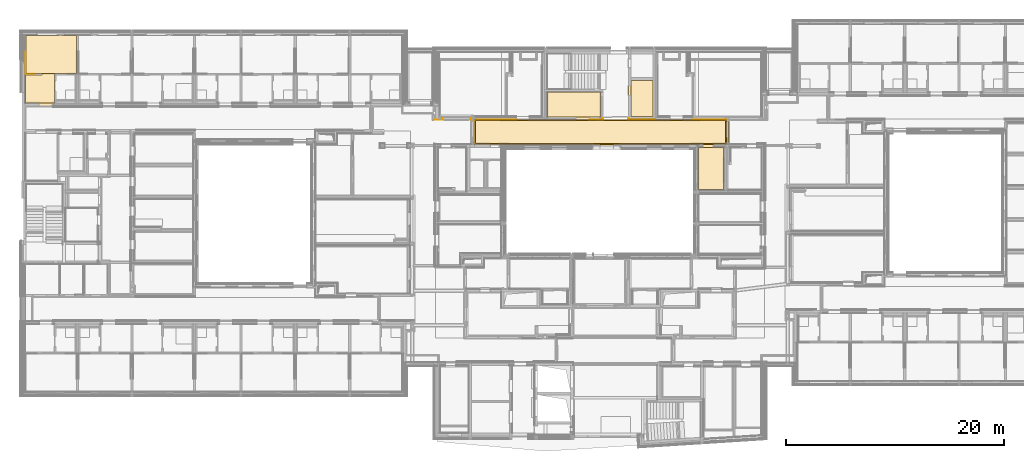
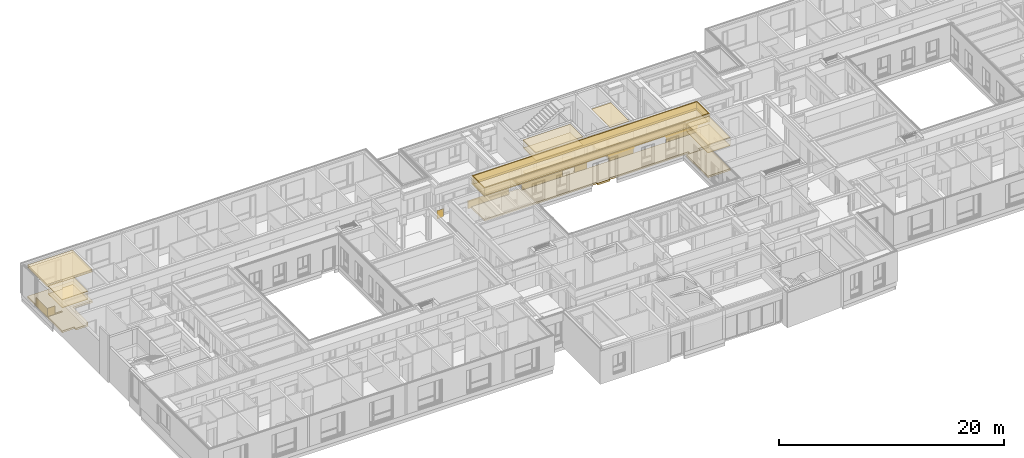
# One storey, part 172 of 207: 34 coverings.
"""IFC4 building model written with IfcOpenShell, lengths in metres."""

from ifc_helpers import new_model, entity, si_unit, converted_unit, derived_unit, frame, frame_2d, origin, place, context, subcontext, project, spatial, polyline, rectangle, outline, extrude, material, layer, layer_set, layer_usage, element, save


model = new_model("IFC4")

# Units and contexts
model_context = context("Model", 3, precision=1e-05, world=origin())
body_context = subcontext(model_context, "Body", "Model", "MODEL_VIEW")
ifc_project = project(units=[si_unit("LENGTHUNIT", "METRE"), si_unit("AREAUNIT", "SQUARE_METRE"), si_unit("VOLUMEUNIT", "CUBIC_METRE"), si_unit("MASSUNIT", "GRAM", prefix="KILO"), converted_unit("PLANEANGLEUNIT", "DEGREE", entity("IfcPlaneAngleMeasure", 0.0174532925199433), si_unit("PLANEANGLEUNIT", "RADIAN"), dimensions=[0, 0, 0, 0, 0, 0, 0]), derived_unit("THERMALTRANSMITTANCEUNIT", [(si_unit("POWERUNIT", "WATT"), 1), (si_unit("THERMODYNAMICTEMPERATUREUNIT", "KELVIN"), -1), (si_unit("LENGTHUNIT", "METRE"), -2)]), derived_unit("VOLUMETRICFLOWRATEUNIT", [(si_unit("LENGTHUNIT", "METRE"), 3), (converted_unit("TIMEUNIT", "hour", entity("IfcTimeMeasure", 3600.0), si_unit("TIMEUNIT", "SECOND"), dimensions=[0, 0, 1, 0, 0, 0, 0]), -1), (si_unit("LENGTHUNIT", "METRE"), -1)])], contexts=[model_context])

# Site, building, storey, space
site_placement = place(None, origin())
site = spatial("IfcSite", under=ifc_project, at=site_placement, Name="Psychiatrie Neubau Wunstorf", CompositionType="ELEMENT")
building_placement = place(site_placement, origin())
building = spatial("IfcBuilding", under=site, at=building_placement, Name="Neubau H2 Stationsgebäude", CompositionType="ELEMENT")
storey_placement = place(building_placement, frame((0.0, 0.0, -0.2)))
storey = spatial("IfcBuildingStorey", under=building, at=storey_placement, Name="H2 Ebene 0", CompositionType="ELEMENT", Elevation=-0.2)
space_1_placement = place(storey_placement, frame((41.4405, 20.5859970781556, 0.0)))
space_1 = spatial("IfcSpace", under=storey, at=space_1_placement, Name="WUN-H2-E00-F08", CompositionType="ELEMENT")

# Coverings
ifc_material_1 = material(Name="97")
ifc_layer_1 = layer(ifc_material_1, 0.001)
ifc_layer_set_1 = layer_set([ifc_layer_1])
ifc_layer_usage_1 = layer_usage(ifc_layer_set_1, "AXIS3", "POSITIVE", 0.0)
covering_1_placement = place(space_1_placement, frame((14.1595, 2.27800291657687, 0.8)))
element("IfcCovering", 1, at=covering_1_placement, inside=space_1, material=ifc_layer_usage_1, Name="Handlauf", PredefinedType="CLADDING", context=body_context, shape_type="SweptSolid", body=[
    extrude(rectangle(XDim=0.1, YDim=2.5, at=frame_2d((1.25, 0.05), x_axis=(0.0, 1.0))), frame((2.5, 0.0, 0.1), z_axis=(1.94381573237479e-10, -1.0, 0.0), x_axis=(-1.0, -1.94381573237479e-10, 0.0)), (0.0, 0.0, 1.0), 0.001),
    extrude(rectangle(XDim=0.1, YDim=3.17449999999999, at=frame_2d((1.58724999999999, 0.05), x_axis=(0.0, 1.0))), frame((9.03849999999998, 0.0, 0.1), z_axis=(1.94382324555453e-10, -1.0, 0.0), x_axis=(-1.0, -1.94382324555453e-10, 0.0)), (0.0, 0.0, 1.0), 0.001),
])
ifc_material_2 = material(Name="84")
ifc_layer_2 = layer(ifc_material_2, 0.001)
ifc_layer_set_2 = layer_set([ifc_layer_2])
ifc_layer_usage_2 = layer_usage(ifc_layer_set_2, "AXIS3", "POSITIVE", 0.0)
covering_2_placement = place(space_1_placement, frame((-3.5615, 2.2780029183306, 0.1)))
element("IfcCovering", 2, at=covering_2_placement, inside=space_1, material=ifc_layer_usage_2, Name="Acrobyn", PredefinedType="CLADDING", context=body_context, shape_type="SweptSolid", body=[
    extrude(rectangle(XDim=0.9, YDim=0.651500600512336, at=frame_2d((0.325750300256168, 0.45), x_axis=(0.0, 1.0))), frame((0.651500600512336, 0.0, 0.9), z_axis=(1.17263982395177e-13, -1.0, 0.0), x_axis=(-1.0, -1.17263982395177e-13, 0.0)), (0.0, 0.0, 1.0), 0.001),
    extrude(rectangle(XDim=0.9, YDim=4.22449940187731, at=frame_2d((-2.11224970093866, -0.45), x_axis=(0.0, -1.0))), frame((3.20150060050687, 0.0, 0.0), z_axis=(1.18409789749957e-13, -1.0, 2.02109933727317e-15), x_axis=(-1.0, -1.18409789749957e-13, 0.0)), (0.0, 0.0, 1.0), 0.001),
    extrude(rectangle(XDim=0.9, YDim=4.22499999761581, at=frame_2d((-2.11249999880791, -0.45), x_axis=(0.0, -1.0))), frame((8.68600000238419, 0.0, 0.0), z_axis=(1.17965230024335e-13, -1.0, 0.0), x_axis=(-1.0, -1.17965230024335e-13, 0.0)), (0.0, 0.0, 1.0), 0.001),
    extrude(rectangle(XDim=0.9, YDim=1.25, at=frame_2d((-0.625, -0.45), x_axis=(0.0, -1.0))), frame((14.171, 0.0, 0.0), z_axis=(1.16415321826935e-13, -1.0, 0.0), x_axis=(-1.0, -1.16415321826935e-13, 0.0)), (0.0, 0.0, 1.0), 0.001),
    extrude(rectangle(XDim=0.9, YDim=2.5, at=frame_2d((-1.25, -0.45), x_axis=(0.0, -1.0))), frame((17.721, 0.0, 0.0), z_axis=(1.19325704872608e-13, -1.0, 0.0), x_axis=(-1.0, -1.19325704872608e-13, 0.0)), (0.0, 0.0, 1.0), 0.001),
    extrude(rectangle(XDim=3.17449999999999, YDim=0.9, at=frame_2d((-1.58724999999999, 0.45), x_axis=(-1.0, 0.0))), frame((23.585, 0.0, 0.9), z_axis=(1.19184059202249e-13, -1.0, 0.0), x_axis=(-1.0, -1.19184059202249e-13, 0.0)), (0.0, 0.0, 1.0), 0.001),
    extrude(rectangle(XDim=0.105001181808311, YDim=0.9, at=frame_2d((0.0525005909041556, -0.45), x_axis=(1.0, 0.0))), frame((3.20150060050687, -1.18180770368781e-06, 0.0), z_axis=(-0.999999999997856, -2.07069288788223e-06, 0.0), x_axis=(-2.07069288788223e-06, 0.999999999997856, 0.0)), (0.0, 0.0, 1.0), 0.001),
    extrude(rectangle(XDim=0.105006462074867, YDim=0.9, at=frame_2d((-0.0525032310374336, 0.45), x_axis=(-1.0, -1.08266515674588e-15))), frame((0.651500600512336, -6.46207456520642e-06, 0.9), z_axis=(0.999999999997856, 2.070692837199e-06, 0.0), x_axis=(2.070692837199e-06, -0.999999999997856, 0.0)), (0.0, 0.0, 1.0), 0.001),
    extrude(rectangle(XDim=0.141000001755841, YDim=0.9, at=frame_2d((0.0705000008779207, -0.45), x_axis=(1.0, -8.06289619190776e-16))), frame((17.721, 0.0, 0.0), z_axis=(-1.0, 0.0, 0.0), x_axis=(0.0, 1.0, 0.0)), (0.0, 0.0, 1.0), 0.001),
    extrude(rectangle(XDim=0.141000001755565, YDim=0.9, at=frame_2d((-0.0705000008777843, 0.45), x_axis=(-1.0, 0.0))), frame((15.421, 0.0, 0.9), z_axis=(1.0, 0.0, 0.0), x_axis=(0.0, -1.0, 0.0)), (0.0, 0.0, 1.0), 0.001),
])
ifc_material_3 = material(Name="Ku1")
ifc_layer_3 = layer(ifc_material_3, 0.2)
ifc_layer_set_3 = layer_set([ifc_layer_3])
ifc_layer_usage_3 = layer_usage(ifc_layer_set_3, "AXIS3", "POSITIVE", 0.0)
covering_3_placement = place(space_1_placement, frame((0.0, -0.306998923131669, 0.0)))
element("IfcCovering", 3, at=covering_3_placement, inside=space_1, material=ifc_layer_usage_3, Name="PVC Bahnenware Holzoptik", PredefinedType="FLOORING", context=body_context, shape_type="SweptSolid", body=[
    extrude(rectangle(XDim=0.185000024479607, YDim=1.25, at=frame_2d((0.625, -0.09249998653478), x_axis=(0.0, -1.0))), frame((11.5571117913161, 0.306999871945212, 0.0), z_axis=(0.0, 0.0, 1.0), x_axis=(1.0, 0.0, 0.0)), (0.0, 0.0, 1.0), 0.2),
    extrude(rectangle(XDim=0.307, YDim=1.26, at=frame_2d((0.63, -0.1535), x_axis=(0.0, -1.0))), frame((3.86450000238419, 2.89200183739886, 0.0), z_axis=(0.0, 0.0, 1.0), x_axis=(1.0, 0.0, 0.0)), (0.0, 0.0, 1.0), 0.2),
    extrude(rectangle(XDim=0.155, YDim=1.968, at=frame_2d((-0.0775, -0.984), x_axis=(-1.0, 0.0))), frame((23.353, 2.43000085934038, 0.0), z_axis=(0.0, 0.0, 1.0), x_axis=(1.0, 0.0, 0.0)), (0.0, 0.0, 1.0), 0.2),
    extrude(rectangle(XDim=0.306999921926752, YDim=1.01, at=frame_2d((-0.505, 0.153499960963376), x_axis=(0.0, 1.0))), frame((22.0195000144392, 0.0, 0.0), z_axis=(0.0, 0.0, 1.0), x_axis=(1.0, 0.0, 0.0)), (0.0, 0.0, 1.0), 0.2),
    extrude(rectangle(XDim=0.0110000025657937, YDim=2.3, at=frame_2d((1.15, -0.00550000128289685), x_axis=(0.0, -1.0))), frame((11.8595, 2.59600184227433, 0.0), z_axis=(0.0, 0.0, 1.0), x_axis=(1.0, 0.0, 0.0)), (0.0, 0.0, 1.0), 0.2),
    extrude(outline(polyline([(11.8595, 2.28900291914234), (11.8595, 2.27650291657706), (11.6095, 2.27650291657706), (11.6095, 2.27800291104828), (0.0, 2.27800196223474), (0.0, 0.0), (23.198, 9.54083639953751e-07), (23.198, 2.27800291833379), (16.6595, 2.27800291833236), (16.6595, 2.27650291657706), (14.1595, 2.27650291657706), (14.1595, 2.28900291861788), (11.8595, 2.28900291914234)])), frame((0.0, 0.306998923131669, 0.0), z_axis=(0.0, 0.0, 1.0), x_axis=(1.0, 0.0, 0.0)), (0.0, 0.0, 1.0), 0.2),
])
ifc_material_4 = material()
ifc_layer_4 = layer(ifc_material_4, 0.036)
ifc_layer_set_4 = layer_set([ifc_layer_4])
ifc_layer_usage_4 = layer_usage(ifc_layer_set_4, "AXIS3", "POSITIVE", 0.0)
covering_4_placement = place(space_1_placement, frame((0.0, 0.0, 3.6)))
element("IfcCovering", 4, at=covering_4_placement, inside=space_1, material=ifc_layer_usage_4, Name="Gipsfaserplatten 2-lagig (BSK)", PredefinedType="CEILING", context=body_context, shape_type="SweptSolid", body=[
    extrude(outline(polyline([(23.198, 2.28900196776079), (0.0, 2.28900292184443), (0.0, 0.0110009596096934), (11.6095, 0.0110000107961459), (11.6095, 0.012500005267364), (11.8595, 0.012500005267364), (11.8595, 0.0), (14.1595, 0.0), (14.1595, 0.012500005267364), (16.6595, 0.012500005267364), (16.6595, 0.0110000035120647), (23.198, 0.0110000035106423), (23.198, 2.28900196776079)]), holes=[polyline([(23.098, 0.110999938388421), (0.1, 0.111000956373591), (0.1, 2.18900292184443), (23.098, 2.18900196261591), (23.098, 0.110999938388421)])]), frame((0.0, 2.28900292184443, 0.0), z_axis=(0.0, 0.0, -1.0), x_axis=(1.0, 0.0, 0.0)), (0.0, 0.0, 1.0), 0.036),
])
ifc_material_5 = material(Name="Installationshöhe")
ifc_layer_5 = layer(ifc_material_5, 0.664)
ifc_layer_set_5 = layer_set([ifc_layer_5])
ifc_layer_usage_5 = layer_usage(ifc_layer_set_5, "AXIS3", "POSITIVE", 0.0)
covering_5_placement = place(space_1_placement, frame((0.0, 0.0, 3.564)))
element("IfcCovering", 5, at=covering_5_placement, inside=space_1, material=ifc_layer_usage_5, Name="Gipsfaserplatten 2-lagig (BSK)", PredefinedType="CEILING", context=body_context, shape_type="SweptSolid", body=[
    extrude(outline(polyline([(23.198, 2.28900196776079), (0.0, 2.28900292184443), (0.0, 0.0110009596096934), (11.6095, 0.0110000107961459), (11.6095, 0.012500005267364), (11.8595, 0.012500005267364), (11.8595, 0.0), (14.1595, 0.0), (14.1595, 0.012500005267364), (16.6595, 0.012500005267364), (16.6595, 0.0110000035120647), (23.198, 0.0110000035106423), (23.198, 2.28900196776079)]), holes=[polyline([(23.098, 0.110999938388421), (0.1, 0.111000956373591), (0.1, 2.18900292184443), (23.098, 2.18900196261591), (23.098, 0.110999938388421)])]), frame((0.0, 2.28900292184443, 0.0), z_axis=(0.0, 0.0, -1.0), x_axis=(1.0, 0.0, 0.0)), (0.0, 0.0, 1.0), 0.664),
])
ifc_material_6 = material(Name="A1")
ifc_layer_6 = layer(ifc_material_6, 0.2)
ifc_layer_set_6 = layer_set([ifc_layer_6])
ifc_layer_usage_6 = layer_usage(ifc_layer_set_6, "AXIS3", "POSITIVE", 0.0)
covering_6_placement = place(space_1_placement, frame((0.0, 0.0, 2.9)))
element("IfcCovering", 6, at=covering_6_placement, inside=space_1, material=ifc_layer_usage_6, Name="Gipsfaserplatten 2-lagig (BSK)", PredefinedType="CEILING", context=body_context, shape_type="SweptSolid", body=[
    extrude(outline(polyline([(23.198, 2.28900196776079), (0.0, 2.28900292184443), (0.0, 0.0110009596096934), (11.6095, 0.0110000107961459), (11.6095, 0.012500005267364), (11.8595, 0.012500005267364), (11.8595, 0.0), (14.1595, 0.0), (14.1595, 0.012500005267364), (16.6595, 0.012500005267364), (16.6595, 0.0110000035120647), (23.198, 0.0110000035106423), (23.198, 2.28900196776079)]), holes=[polyline([(23.098, 0.110999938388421), (0.1, 0.111000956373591), (0.1, 2.18900292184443), (23.098, 2.18900196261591), (23.098, 0.110999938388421)])]), frame((0.0, 2.28900292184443, 0.0), z_axis=(0.0, 0.0, -1.0), x_axis=(1.0, 0.0, 0.0)), (0.0, 0.0, 1.0), 0.2),
])
ifc_material_7 = material(Name="D1")
ifc_layer_7 = layer(ifc_material_7, 0.001)
ifc_layer_set_7 = layer_set([ifc_layer_7])
ifc_layer_usage_7 = layer_usage(ifc_layer_set_7, "AXIS3", "POSITIVE", 0.0)
covering_7_placement = place(space_1_placement, frame((0.0, 0.0, 2.7)))
element("IfcCovering", 7, at=covering_7_placement, inside=space_1, material=ifc_layer_usage_7, Name="Gipsfaserplatten 2-lagig (BSK)", PredefinedType="CEILING", context=body_context, shape_type="SweptSolid", body=[
    extrude(outline(polyline([(23.198, 2.28900196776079), (0.0, 2.28900292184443), (0.0, 0.0110009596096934), (11.6095, 0.0110000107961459), (11.6095, 0.012500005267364), (11.8595, 0.012500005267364), (11.8595, 0.0), (14.1595, 0.0), (14.1595, 0.012500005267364), (16.6595, 0.012500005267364), (16.6595, 0.0110000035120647), (23.198, 0.0110000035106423), (23.198, 2.28900196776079)]), holes=[polyline([(23.098, 0.110999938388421), (0.1, 0.111000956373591), (0.1, 2.18900292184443), (23.098, 2.18900196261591), (23.098, 0.110999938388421)])]), frame((0.0, 2.28900292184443, 0.0), z_axis=(0.0, 0.0, -1.0), x_axis=(1.0, 0.0, 0.0)), (0.0, 0.0, 1.0), 0.001),
])
ifc_material_8 = material()
ifc_layer_8 = layer(ifc_material_8, 0.036)
ifc_layer_set_8 = layer_set([ifc_layer_8])
ifc_layer_usage_8 = layer_usage(ifc_layer_set_8, "AXIS3", "POSITIVE", 0.0)
covering_8_placement = place(space_1_placement, frame((0.1, 0.0999999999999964, 3.6)))
element("IfcCovering", 8, at=covering_8_placement, inside=space_1, material=ifc_layer_usage_8, Name="Gipsfaserplatten 2-lagig (BSK)", PredefinedType="CEILING", context=body_context, shape_type="SweptSolid", body=[
    extrude(outline(polyline([(22.998, 2.07800190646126), (0.0, 2.07800298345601), (0.0, 1.0179851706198e-06), (22.998, 0.0), (22.998, 2.07800190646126)])), frame((0.0, 2.07800298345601, 0.0), z_axis=(0.0, 0.0, -1.0), x_axis=(1.0, 0.0, 0.0)), (0.0, 0.0, 1.0), 0.036),
])
ifc_material_9 = material(Name="Installationshöhe")
ifc_layer_9 = layer(ifc_material_9, 0.664)
ifc_layer_set_9 = layer_set([ifc_layer_9])
ifc_layer_usage_9 = layer_usage(ifc_layer_set_9, "AXIS3", "POSITIVE", 0.0)
covering_9_placement = place(space_1_placement, frame((0.1, 0.0999999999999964, 3.564)))
element("IfcCovering", 9, at=covering_9_placement, inside=space_1, material=ifc_layer_usage_9, Name="Gipsfaserplatten 2-lagig (BSK)", PredefinedType="CEILING", context=body_context, shape_type="SweptSolid", body=[
    extrude(outline(polyline([(22.998, 2.07800190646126), (0.0, 2.07800298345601), (0.0, 1.0179851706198e-06), (22.998, 0.0), (22.998, 2.07800190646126)])), frame((0.0, 2.07800298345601, 0.0), z_axis=(0.0, 0.0, -1.0), x_axis=(1.0, 0.0, 0.0)), (0.0, 0.0, 1.0), 0.664),
])
ifc_material_10 = material(Name="Aa")
ifc_layer_10 = layer(ifc_material_10, 0.2)
ifc_layer_set_10 = layer_set([ifc_layer_10])
ifc_layer_usage_10 = layer_usage(ifc_layer_set_10, "AXIS3", "POSITIVE", 0.0)
covering_10_placement = place(space_1_placement, frame((0.1, 0.0999999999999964, 2.9)))
element("IfcCovering", 10, at=covering_10_placement, inside=space_1, material=ifc_layer_usage_10, Name="Gipsfaserplatten 2-lagig (BSK)", PredefinedType="CEILING", context=body_context, shape_type="SweptSolid", body=[
    extrude(outline(polyline([(22.998, 2.07800190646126), (0.0, 2.07800298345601), (0.0, 1.0179851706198e-06), (22.998, 0.0), (22.998, 2.07800190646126)])), frame((0.0, 2.07800298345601, 0.0), z_axis=(0.0, 0.0, -1.0), x_axis=(1.0, 0.0, 0.0)), (0.0, 0.0, 1.0), 0.2),
])
ifc_material_11 = material(Name="D1")
ifc_layer_11 = layer(ifc_material_11, 0.001)
ifc_layer_set_11 = layer_set([ifc_layer_11])
ifc_layer_usage_11 = layer_usage(ifc_layer_set_11, "AXIS3", "POSITIVE", 0.0)
covering_11_placement = place(space_1_placement, frame((0.1, 0.0999999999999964, 2.7)))
element("IfcCovering", 11, at=covering_11_placement, inside=space_1, material=ifc_layer_usage_11, Name="Gipsfaserplatten 2-lagig (BSK)", PredefinedType="CEILING", context=body_context, shape_type="SweptSolid", body=[
    extrude(outline(polyline([(22.998, 2.07800190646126), (0.0, 2.07800298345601), (0.0, 1.0179851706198e-06), (22.998, 0.0), (22.998, 2.07800190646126)])), frame((0.0, 2.07800298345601, 0.0), z_axis=(0.0, 0.0, -1.0), x_axis=(1.0, 0.0, 0.0)), (0.0, 0.0, 1.0), 0.001),
])

# Space
space_2_placement = place(storey_placement, frame((48.185, 23.0959999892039, 0.0)))
space_2 = spatial("IfcSpace", under=storey, at=space_2_placement, Name="WUN-H2-E00-049", CompositionType="ELEMENT")

# Coverings
ifc_material_12 = material(Name="Ku1")
ifc_layer_12 = layer(ifc_material_12, 0.2)
ifc_layer_set_12 = layer_set([ifc_layer_12])
ifc_layer_usage_12 = layer_usage(ifc_layer_set_12, "AXIS3", "POSITIVE", 0.0)
covering_12_placement = place(space_2_placement, frame((0.0109999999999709, -0.231999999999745, 0.0)))
element("IfcCovering", 12, at=covering_12_placement, inside=space_2, material=ifc_layer_usage_12, Name="PVC Bahnenware Holzoptik", PredefinedType="FLOORING", context=body_context, shape_type="SweptSolid", body=[
    extrude(rectangle(XDim=0.232, YDim=1.26, at=frame_2d((-0.63, 0.116), x_axis=(0.0, 1.0))), frame((3.85400000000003, 0.0, 0.0), z_axis=(0.0, 0.0, 1.0), x_axis=(1.0, 0.0, 0.0)), (0.0, 0.0, 1.0), 0.2),
    extrude(rectangle(XDim=4.85400000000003, YDim=2.28900001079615, at=frame_2d((2.42700000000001, 1.14450000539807), x_axis=(1.0, 0.0))), frame((0.0, 0.231999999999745, 0.0), z_axis=(0.0, 0.0, 1.0), x_axis=(1.0, 0.0, 0.0)), (0.0, 0.0, 1.0), 0.2),
])
ifc_material_13 = material()
ifc_layer_13 = layer(ifc_material_13, 0.036)
ifc_layer_set_13 = layer_set([ifc_layer_13])
ifc_layer_usage_13 = layer_usage(ifc_layer_set_13, "AXIS3", "POSITIVE", 0.0)
covering_13_placement = place(space_2_placement, frame((0.0109999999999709, 0.0, 3.6)))
element("IfcCovering", 13, at=covering_13_placement, inside=space_2, material=ifc_layer_usage_13, Name="Gipsfaserplatten 2-lagig (BSK)", PredefinedType="CEILING", context=body_context, shape_type="SweptSolid", body=[
    extrude(rectangle(XDim=4.85400000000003, YDim=2.28900000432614, at=frame_2d((-2.42700000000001, -1.14450000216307), x_axis=(-1.0, 0.0))), frame((4.85400000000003, 0.0, 0.0), z_axis=(0.0, 0.0, -1.0), x_axis=(1.0, 0.0, 0.0)), (0.0, 0.0, 1.0), 0.036),
])
ifc_material_14 = material(Name="Installationshöhe")
ifc_layer_14 = layer(ifc_material_14, 0.764)
ifc_layer_set_14 = layer_set([ifc_layer_14])
ifc_layer_usage_14 = layer_usage(ifc_layer_set_14, "AXIS3", "POSITIVE", 0.0)
covering_14_placement = place(space_2_placement, frame((0.0109999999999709, 0.0, 3.564)))
element("IfcCovering", 14, at=covering_14_placement, inside=space_2, material=ifc_layer_usage_14, Name="Gipsfaserplatten 2-lagig (BSK)", PredefinedType="CEILING", context=body_context, shape_type="SweptSolid", body=[
    extrude(rectangle(XDim=4.85400000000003, YDim=2.28900000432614, at=frame_2d((-2.42700000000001, -1.14450000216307), x_axis=(-1.0, 0.0))), frame((4.85400000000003, 0.0, 0.0), z_axis=(0.0, 0.0, -1.0), x_axis=(1.0, 0.0, 0.0)), (0.0, 0.0, 1.0), 0.764),
])
ifc_material_15 = material(Name="B")
ifc_layer_15 = layer(ifc_material_15, 0.1)
ifc_layer_set_15 = layer_set([ifc_layer_15])
ifc_layer_usage_15 = layer_usage(ifc_layer_set_15, "AXIS3", "POSITIVE", 0.0)
covering_15_placement = place(space_2_placement, frame((0.0109999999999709, 0.0, 2.8)))
element("IfcCovering", 15, at=covering_15_placement, inside=space_2, material=ifc_layer_usage_15, Name="Gipskarton, imprägniert", PredefinedType="CEILING", context=body_context, shape_type="SweptSolid", body=[
    extrude(rectangle(XDim=4.85400000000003, YDim=2.28900000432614, at=frame_2d((-2.42700000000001, -1.14450000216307), x_axis=(-1.0, 0.0))), frame((4.85400000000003, 0.0, 0.0), z_axis=(0.0, 0.0, -1.0), x_axis=(1.0, 0.0, 0.0)), (0.0, 0.0, 1.0), 0.1),
])
ifc_material_16 = material(Name="D1")
ifc_layer_16 = layer(ifc_material_16, 0.001)
ifc_layer_set_16 = layer_set([ifc_layer_16])
ifc_layer_usage_16 = layer_usage(ifc_layer_set_16, "AXIS3", "POSITIVE", 0.0)
covering_16_placement = place(space_2_placement, frame((0.0109999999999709, 0.0, 2.7)))
element("IfcCovering", 16, at=covering_16_placement, inside=space_2, material=ifc_layer_usage_16, Name="Gipsfaserplatten 2-lagig (BSK)", PredefinedType="CEILING", context=body_context, shape_type="SweptSolid", body=[
    extrude(rectangle(XDim=4.85400000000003, YDim=2.28900000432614, at=frame_2d((-2.42700000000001, -1.14450000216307), x_axis=(-1.0, 0.0))), frame((4.85400000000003, 0.0, 0.0), z_axis=(0.0, 0.0, -1.0), x_axis=(1.0, 0.0, 0.0)), (0.0, 0.0, 1.0), 0.001),
])

# Space
space_3_placement = place(storey_placement, frame((62.0610000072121, 16.4610000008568, 0.0)))
space_3 = spatial("IfcSpace", under=storey, at=space_3_placement, Name="WUN-H2-E00-051", CompositionType="ELEMENT")

# Coverings
ifc_material_17 = material(Name="Ku2")
ifc_layer_17 = layer(ifc_material_17, 0.2)
ifc_layer_set_17 = layer_set([ifc_layer_17])
ifc_layer_usage_17 = layer_usage(ifc_layer_set_17, "AXIS3", "POSITIVE", 0.0)
covering_17_placement = place(space_3_placement, origin())
element("IfcCovering", 17, at=covering_17_placement, inside=space_3, material=ifc_layer_usage_17, Name="PVC Bahnenware Uni", PredefinedType="FLOORING", context=body_context, shape_type="SweptSolid", body=[
    extrude(rectangle(XDim=2.29899999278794, YDim=3.81799815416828, at=frame_2d((-1.14949999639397, -1.90899907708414), x_axis=(-1.0, 0.0))), frame((2.29899999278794, 3.81799815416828, 0.0), z_axis=(0.0, 0.0, 1.0), x_axis=(1.0, 0.0, 0.0)), (0.0, 0.0, 1.0), 0.2),
])
ifc_material_18 = material()
ifc_layer_18 = layer(ifc_material_18, 0.036)
ifc_layer_set_18 = layer_set([ifc_layer_18])
ifc_layer_usage_18 = layer_usage(ifc_layer_set_18, "AXIS3", "POSITIVE", 0.0)
covering_18_placement = place(space_3_placement, frame((0.0, 0.0, 3.6)))
element("IfcCovering", 18, at=covering_18_placement, inside=space_3, material=ifc_layer_usage_18, Name="Gipsfaserplatten 2-lagig (BSK)", PredefinedType="CEILING", context=body_context, shape_type="SweptSolid", body=[
    extrude(rectangle(XDim=2.29899999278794, YDim=3.81799815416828, at=frame_2d((1.14949999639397, 1.90899907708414), x_axis=(1.0, 0.0))), frame((0.0, 3.81799815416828, 0.0), z_axis=(0.0, 0.0, -1.0), x_axis=(1.0, 0.0, 0.0)), (0.0, 0.0, 1.0), 0.036),
])
ifc_material_19 = material(Name="Installationshöhe")
ifc_layer_19 = layer(ifc_material_19, 0.764)
ifc_layer_set_19 = layer_set([ifc_layer_19])
ifc_layer_usage_19 = layer_usage(ifc_layer_set_19, "AXIS3", "POSITIVE", 0.0)
covering_19_placement = place(space_3_placement, frame((0.0, 0.0, 3.564)))
element("IfcCovering", 19, at=covering_19_placement, inside=space_3, material=ifc_layer_usage_19, Name="Gipsfaserplatten 2-lagig (BSK)", PredefinedType="CEILING", context=body_context, shape_type="SweptSolid", body=[
    extrude(rectangle(XDim=2.29899999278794, YDim=3.81799815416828, at=frame_2d((1.14949999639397, 1.90899907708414), x_axis=(1.0, 0.0))), frame((0.0, 3.81799815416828, 0.0), z_axis=(0.0, 0.0, -1.0), x_axis=(1.0, 0.0, 0.0)), (0.0, 0.0, 1.0), 0.764),
])
ifc_material_20 = material(Name="A1")
ifc_layer_20 = layer(ifc_material_20, 0.1)
ifc_layer_set_20 = layer_set([ifc_layer_20])
ifc_layer_usage_20 = layer_usage(ifc_layer_set_20, "AXIS3", "POSITIVE", 0.0)
covering_20_placement = place(space_3_placement, frame((0.0, 0.0, 2.8)))
element("IfcCovering", 20, at=covering_20_placement, inside=space_3, material=ifc_layer_usage_20, Name="Gipsfaserplatten 2-lagig (BSK)", PredefinedType="CEILING", context=body_context, shape_type="SweptSolid", body=[
    extrude(rectangle(XDim=2.29899999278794, YDim=3.81799815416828, at=frame_2d((1.14949999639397, 1.90899907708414), x_axis=(1.0, 0.0))), frame((0.0, 3.81799815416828, 0.0), z_axis=(0.0, 0.0, -1.0), x_axis=(1.0, 0.0, 0.0)), (0.0, 0.0, 1.0), 0.1),
])
ifc_material_21 = material(Name="D1")
ifc_layer_21 = layer(ifc_material_21, 0.001)
ifc_layer_set_21 = layer_set([ifc_layer_21])
ifc_layer_usage_21 = layer_usage(ifc_layer_set_21, "AXIS3", "POSITIVE", 0.0)
covering_21_placement = place(space_3_placement, frame((0.0, 0.0, 2.7)))
element("IfcCovering", 21, at=covering_21_placement, inside=space_3, material=ifc_layer_usage_21, Name="Gipsfaserplatten 2-lagig (BSK)", PredefinedType="CEILING", context=body_context, shape_type="SweptSolid", body=[
    extrude(rectangle(XDim=2.29899999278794, YDim=3.81799815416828, at=frame_2d((1.14949999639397, 1.90899907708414), x_axis=(1.0, 0.0))), frame((0.0, 3.81799815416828, 0.0), z_axis=(0.0, 0.0, -1.0), x_axis=(1.0, 0.0, 0.0)), (0.0, 0.0, 1.0), 0.001),
])

# Space
space_4_placement = place(storey_placement, frame((0.208999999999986, 24.3895, 0.0)))
space_4 = spatial("IfcSpace", under=storey, at=space_4_placement, Name="WUN-H2-E00-041", CompositionType="ELEMENT")

# Coverings
ifc_material_22 = material(Name="84")
ifc_layer_22 = layer(ifc_material_22, 0.001)
ifc_layer_set_22 = layer_set([ifc_layer_22])
ifc_layer_usage_22 = layer_usage(ifc_layer_set_22, "AXIS3", "POSITIVE", 0.0)
covering_22_placement = place(space_4_placement, frame((0.0350000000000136, 2.69999999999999, 0.1)))
element("IfcCovering", 22, at=covering_22_placement, inside=space_4, material=ifc_layer_usage_22, Name="Acrobyn", PredefinedType="CLADDING", context=body_context, shape_type="SweptSolid", body=[
    extrude(rectangle(XDim=2.0, YDim=0.9, at=frame_2d((1.0, -0.45), x_axis=(1.0, 0.0))), frame((0.0, 2.0, 0.0), z_axis=(1.0, 0.0, 0.0), x_axis=(0.0, -1.0, 0.0)), (0.0, 0.0, 1.0), 0.001),
    extrude(rectangle(XDim=0.8, YDim=0.9, at=frame_2d((0.4, -0.45), x_axis=(1.0, 0.0))), frame((0.0, 0.0, 0.0), z_axis=(0.0, 1.0, 0.0), x_axis=(1.0, 0.0, 0.0)), (0.0, 0.0, 1.0), 0.001),
])
ifc_material_23 = material(Name="Ku1")
ifc_layer_23 = layer(ifc_material_23, 0.2)
ifc_layer_set_23 = layer_set([ifc_layer_23])
ifc_layer_usage_23 = layer_usage(ifc_layer_set_23, "AXIS3", "POSITIVE", 0.0)
covering_23_placement = place(space_4_placement, frame((0.0, -0.272000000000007, 0.0)))
element("IfcCovering", 23, at=covering_23_placement, inside=space_4, material=ifc_layer_usage_23, Name="PVC Bahnenware Holzoptik", PredefinedType="FLOORING", context=body_context, shape_type="SweptSolid", body=[
    extrude(rectangle(XDim=0.272, YDim=1.26, at=frame_2d((0.63, -0.135999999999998), x_axis=(0.0, -1.0))), frame((1.25600000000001, 0.271999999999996, 0.0), z_axis=(0.0, 0.0, 1.0), x_axis=(1.0, 0.0, 0.0)), (0.0, 0.0, 1.0), 0.2),
    extrude(outline(polyline([(2.66600000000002, 2.69999999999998), (4.69100000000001, 2.69999999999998), (4.69100000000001, 6.2245), (0.0350000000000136, 6.2245), (0.0350000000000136, 2.69999999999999), (1.53500000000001, 2.69999999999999), (1.535, 2.54999999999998), (0.0, 2.54999999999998), (0.0, 0.0), (2.66600000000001, 0.0), (2.66600000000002, 2.69999999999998)])), frame((0.0, 0.272000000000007, 0.0), z_axis=(0.0, 0.0, 1.0), x_axis=(1.0, 0.0, 0.0)), (0.0, 0.0, 1.0), 0.2),
])
ifc_material_24 = material()
ifc_layer_24 = layer(ifc_material_24, 0.036)
ifc_layer_set_24 = layer_set([ifc_layer_24])
ifc_layer_usage_24 = layer_usage(ifc_layer_set_24, "AXIS3", "POSITIVE", 0.0)
covering_24_placement = place(space_4_placement, frame((0.0350000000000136, 2.69999999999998, 3.6)))
element("IfcCovering", 24, at=covering_24_placement, inside=space_4, material=ifc_layer_usage_24, Name="Gipsfaserplatten 2-lagig (BSK)", PredefinedType="CEILING", context=body_context, shape_type="SweptSolid", body=[
    extrude(rectangle(XDim=4.656, YDim=3.52450000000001, at=frame_2d((-2.328, -1.76225000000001), x_axis=(-1.0, -1.56270567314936e-15))), frame((4.656, 0.0, 0.0), z_axis=(0.0, 0.0, -1.0), x_axis=(1.0, 0.0, 0.0)), (0.0, 0.0, 1.0), 0.036),
])
ifc_material_25 = material(Name="Installationshöhe")
ifc_layer_25 = layer(ifc_material_25, 0.114)
ifc_layer_set_25 = layer_set([ifc_layer_25])
ifc_layer_usage_25 = layer_usage(ifc_layer_set_25, "AXIS3", "POSITIVE", 0.0)
covering_25_placement = place(space_4_placement, frame((0.0350000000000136, 2.69999999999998, 3.564)))
element("IfcCovering", 25, at=covering_25_placement, inside=space_4, material=ifc_layer_usage_25, Name="Gipsfaserplatten 2-lagig (BSK)", PredefinedType="CEILING", context=body_context, shape_type="SweptSolid", body=[
    extrude(rectangle(XDim=4.656, YDim=3.52450000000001, at=frame_2d((-2.328, -1.76225000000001), x_axis=(-1.0, -1.56270567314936e-15))), frame((4.656, 0.0, 0.0), z_axis=(0.0, 0.0, -1.0), x_axis=(1.0, 0.0, 0.0)), (0.0, 0.0, 1.0), 0.114),
])
ifc_material_26 = material(Name="A1")
ifc_layer_26 = layer(ifc_material_26, 0.1)
ifc_layer_set_26 = layer_set([ifc_layer_26])
ifc_layer_usage_26 = layer_usage(ifc_layer_set_26, "AXIS3", "POSITIVE", 0.0)
covering_26_placement = place(space_4_placement, frame((0.0350000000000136, 2.69999999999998, 3.45)))
element("IfcCovering", 26, at=covering_26_placement, inside=space_4, material=ifc_layer_usage_26, Name="Gipsfaserplatten 2-lagig (BSK)", PredefinedType="CEILING", context=body_context, shape_type="SweptSolid", body=[
    extrude(rectangle(XDim=4.656, YDim=3.52450000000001, at=frame_2d((-2.328, -1.76225000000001), x_axis=(-1.0, -1.56270567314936e-15))), frame((4.656, 0.0, 0.0), z_axis=(0.0, 0.0, -1.0), x_axis=(1.0, 0.0, 0.0)), (0.0, 0.0, 1.0), 0.1),
])
ifc_material_27 = material(Name="D1")
ifc_layer_27 = layer(ifc_material_27, 0.001)
ifc_layer_set_27 = layer_set([ifc_layer_27])
ifc_layer_usage_27 = layer_usage(ifc_layer_set_27, "AXIS3", "POSITIVE", 0.0)
covering_27_placement = place(space_4_placement, frame((0.0350000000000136, 2.69999999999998, 3.35)))
element("IfcCovering", 27, at=covering_27_placement, inside=space_4, material=ifc_layer_usage_27, Name="Gipsfaserplatten 2-lagig (BSK)", PredefinedType="CEILING", context=body_context, shape_type="SweptSolid", body=[
    extrude(rectangle(XDim=4.656, YDim=3.52450000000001, at=frame_2d((-2.328, -1.76225000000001), x_axis=(-1.0, -1.56270567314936e-15))), frame((4.656, 0.0, 0.0), z_axis=(0.0, 0.0, -1.0), x_axis=(1.0, 0.0, 0.0)), (0.0, 0.0, 1.0), 0.001),
])
ifc_material_28 = material()
ifc_layer_28 = layer(ifc_material_28, 0.036)
ifc_layer_set_28 = layer_set([ifc_layer_28])
ifc_layer_usage_28 = layer_usage(ifc_layer_set_28, "AXIS3", "POSITIVE", 0.0)
covering_28_placement = place(space_4_placement, frame((0.0, 0.0, 3.6)))
element("IfcCovering", 28, at=covering_28_placement, inside=space_4, material=ifc_layer_usage_28, Name="Gipsfaserplatten 2-lagig (BSK)", PredefinedType="CEILING", context=body_context, shape_type="SweptSolid", body=[
    extrude(outline(polyline([(2.66600000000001, 2.69999999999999), (0.0, 2.69999999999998), (0.0, 0.150000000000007), (1.535, 0.150000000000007), (1.53500000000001, 0.0), (2.66600000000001, 0.0), (2.66600000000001, 2.69999999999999)])), frame((0.0, 2.69999999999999, 0.0), z_axis=(0.0, 0.0, -1.0), x_axis=(1.0, 0.0, 0.0)), (0.0, 0.0, 1.0), 0.036),
])
ifc_material_29 = material(Name="Installationshöhe")
ifc_layer_29 = layer(ifc_material_29, 0.764)
ifc_layer_set_29 = layer_set([ifc_layer_29])
ifc_layer_usage_29 = layer_usage(ifc_layer_set_29, "AXIS3", "POSITIVE", 0.0)
covering_29_placement = place(space_4_placement, frame((0.0, 0.0, 3.564)))
element("IfcCovering", 29, at=covering_29_placement, inside=space_4, material=ifc_layer_usage_29, Name="Gipsfaserplatten 2-lagig (BSK)", PredefinedType="CEILING", context=body_context, shape_type="SweptSolid", body=[
    extrude(outline(polyline([(2.66600000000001, 2.69999999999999), (0.0, 2.69999999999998), (0.0, 0.150000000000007), (1.535, 0.150000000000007), (1.53500000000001, 0.0), (2.66600000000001, 0.0), (2.66600000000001, 2.69999999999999)])), frame((0.0, 2.69999999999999, 0.0), z_axis=(0.0, 0.0, -1.0), x_axis=(1.0, 0.0, 0.0)), (0.0, 0.0, 1.0), 0.764),
])
ifc_material_30 = material(Name="A1")
ifc_layer_30 = layer(ifc_material_30, 0.1)
ifc_layer_set_30 = layer_set([ifc_layer_30])
ifc_layer_usage_30 = layer_usage(ifc_layer_set_30, "AXIS3", "POSITIVE", 0.0)
covering_30_placement = place(space_4_placement, frame((0.0, 0.0, 2.8)))
element("IfcCovering", 30, at=covering_30_placement, inside=space_4, material=ifc_layer_usage_30, Name="Gipsfaserplatten 2-lagig (BSK)", PredefinedType="CEILING", context=body_context, shape_type="SweptSolid", body=[
    extrude(outline(polyline([(2.66600000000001, 2.69999999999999), (0.0, 2.69999999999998), (0.0, 0.150000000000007), (1.535, 0.150000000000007), (1.53500000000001, 0.0), (2.66600000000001, 0.0), (2.66600000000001, 2.69999999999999)])), frame((0.0, 2.69999999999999, 0.0), z_axis=(0.0, 0.0, -1.0), x_axis=(1.0, 0.0, 0.0)), (0.0, 0.0, 1.0), 0.1),
])
ifc_material_31 = material(Name="D1")
ifc_layer_31 = layer(ifc_material_31, 0.001)
ifc_layer_set_31 = layer_set([ifc_layer_31])
ifc_layer_usage_31 = layer_usage(ifc_layer_set_31, "AXIS3", "POSITIVE", 0.0)
covering_31_placement = place(space_4_placement, frame((0.0, 0.0, 2.7)))
element("IfcCovering", 31, at=covering_31_placement, inside=space_4, material=ifc_layer_usage_31, Name="Gipsfaserplatten 2-lagig (BSK)", PredefinedType="CEILING", context=body_context, shape_type="SweptSolid", body=[
    extrude(outline(polyline([(2.66600000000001, 2.69999999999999), (0.0, 2.69999999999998), (0.0, 0.150000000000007), (1.535, 0.150000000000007), (1.53500000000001, 0.0), (2.66600000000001, 0.0), (2.66600000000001, 2.69999999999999)])), frame((0.0, 2.69999999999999, 0.0), z_axis=(0.0, 0.0, -1.0), x_axis=(1.0, 0.0, 0.0)), (0.0, 0.0, 1.0), 0.001),
])

# Space
space_5_placement = place(storey_placement, frame((55.85, 23.1549999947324, 0.0)))
space_5 = spatial("IfcSpace", under=storey, at=space_5_placement, Name="WUN-H2-E00-054", CompositionType="ELEMENT")

# Coverings
ifc_material_32 = material(Name="C/C")
ifc_layer_32 = layer(ifc_material_32, 0.036)
ifc_layer_set_32 = layer_set([ifc_layer_32])
ifc_layer_usage_32 = layer_usage(ifc_layer_set_32, "AXIS3", "POSITIVE", 0.0)
covering_32_placement = place(space_5_placement, frame((0.0, 0.0, 3.6)))
element("IfcCovering", 32, at=covering_32_placement, inside=space_5, material=ifc_layer_usage_32, Name="Gipsfaserplatten 2-lagig (BSK)", PredefinedType="CEILING", context=body_context, shape_type="SweptSolid", body=[
    extrude(outline(polyline([(0.0, 0.0), (2.0, 0.0), (2.0, 3.31999985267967), (1.10841071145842e-05, 3.31998764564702), (0.0, 0.0)])), frame((0.0, 3.31999985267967, 0.0), z_axis=(0.0, 0.0, -1.0), x_axis=(1.0, 0.0, 0.0)), (0.0, 0.0, 1.0), 0.036),
])
ifc_material_33 = material(Name="D4")
ifc_layer_33 = layer(ifc_material_33, 0.001)
ifc_layer_set_33 = layer_set([ifc_layer_33])
ifc_layer_usage_33 = layer_usage(ifc_layer_set_33, "AXIS3", "POSITIVE", 0.0)
covering_33_placement = place(space_5_placement, frame((0.0, 0.0, 3.564)))
element("IfcCovering", 33, at=covering_33_placement, inside=space_5, material=ifc_layer_usage_33, Name="Gipsfaserplatten 2-lagig (BSK)", PredefinedType="CEILING", context=body_context, shape_type="SweptSolid", body=[
    extrude(outline(polyline([(0.0, 0.0), (2.0, 0.0), (2.0, 3.31999985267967), (1.10841071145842e-05, 3.31998764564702), (0.0, 0.0)])), frame((0.0, 3.31999985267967, 0.0), z_axis=(0.0, 0.0, -1.0), x_axis=(1.0, 0.0, 0.0)), (0.0, 0.0, 1.0), 0.001),
])
ifc_material_34 = material(Name="Ku3")
ifc_layer_34 = layer(ifc_material_34, 0.2)
ifc_layer_set_34 = layer_set([ifc_layer_34])
ifc_layer_usage_34 = layer_usage(ifc_layer_set_34, "AXIS3", "POSITIVE", 0.0)
covering_34_placement = place(space_5_placement, frame((-0.25, 0.0, 0.0)))
element("IfcCovering", 34, at=covering_34_placement, inside=space_5, material=ifc_layer_usage_34, Name="PVC", PredefinedType="FLOORING", context=body_context, shape_type="SweptSolid", body=[
    extrude(rectangle(XDim=0.25, YDim=0.885, at=frame_2d((0.125, 0.4425), x_axis=(1.0, 0.0))), frame((0.0, 1.9449998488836, 0.0), z_axis=(0.0, 0.0, 1.0), x_axis=(1.0, 0.0, 0.0)), (0.0, 0.0, 1.0), 0.2),
    extrude(outline(polyline([(2.0, 3.31999985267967), (0.0, 3.31999985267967), (1.10841071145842e-05, 1.22070326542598e-05), (2.0, 0.0), (2.0, 3.31999985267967)])), frame((0.25, 0.0, 0.0), z_axis=(0.0, 0.0, 1.0), x_axis=(1.0, 0.0, 0.0)), (0.0, 0.0, 1.0), 0.2),
])

save(model, "model.ifc")
